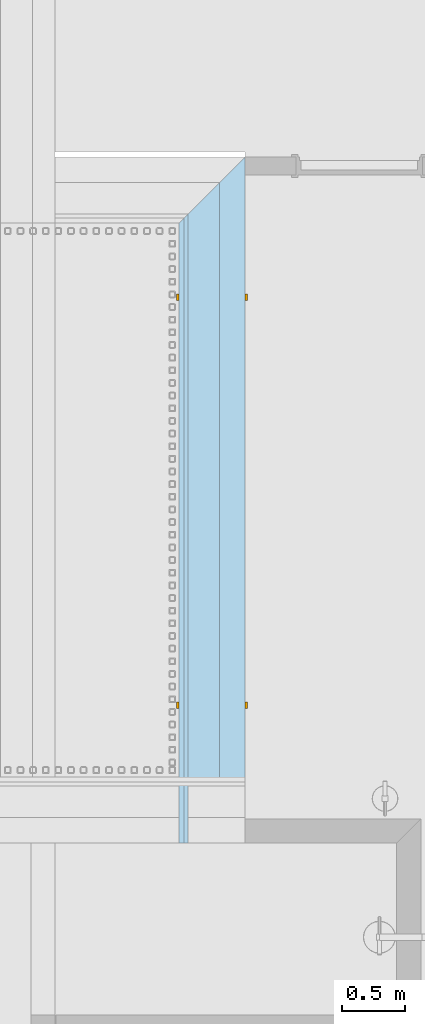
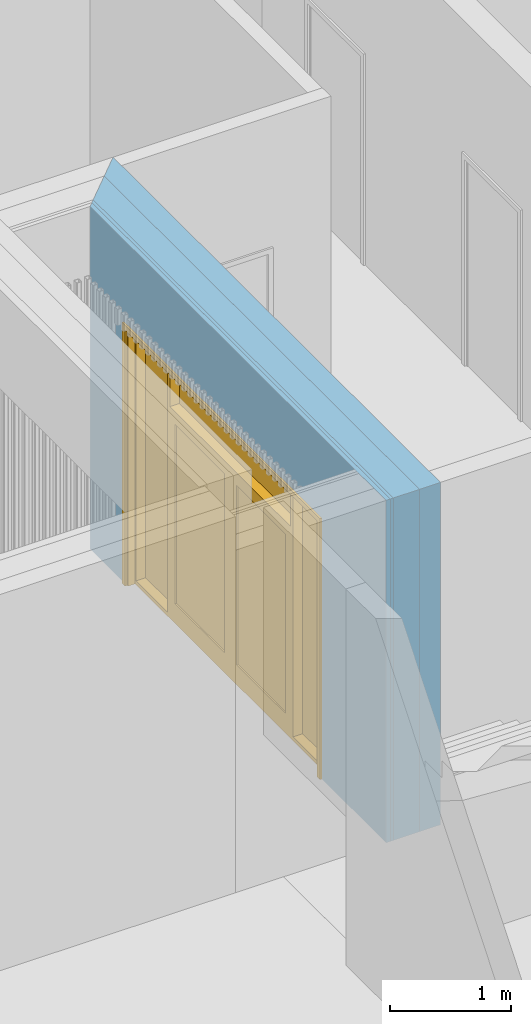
# One storey, part 56 of 112: 1 door, 1 opening, 1 element without a shape of its own, plus 4 elements that do not belong to this part.
"""IFC2X3 building model written with IfcOpenShell, lengths in millimetres."""

from ifc_helpers import new_model, entity, si_unit, converted_unit, derived_unit, money_unit, direction, frame, origin_with_axes, origin_2d_with_axis, place, context, subcontext, project, spatial, polyline, rectangle, outline, extrude, open_shell, faceted_brep, surface_model, material, type_object, element, fill, aggregate, save


model = new_model("IFC2X3")

# Units and contexts
model_context = context("Model", 3, precision=0.01, world=origin_with_axes(), true_north=direction((0.0, 1.0)))
body_context = subcontext(model_context, "Body", "Model", "MODEL_VIEW")
ifc_project = project(units=[si_unit("LENGTHUNIT", "METRE", prefix="MILLI"), si_unit("AREAUNIT", "SQUARE_METRE"), si_unit("VOLUMEUNIT", "CUBIC_METRE"), converted_unit("PLANEANGLEUNIT", "DEGREE", entity("IfcPlaneAngleMeasure", 0.0174532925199), si_unit("PLANEANGLEUNIT", "RADIAN"), dimensions=[0, 0, 0, 0, 0, 0, 0]), si_unit("SOLIDANGLEUNIT", "STERADIAN"), money_unit("EUR"), converted_unit("TIMEUNIT", "Year", entity("IfcTimeMeasure", 31556926.0), si_unit("TIMEUNIT", "SECOND"), dimensions=[0, 0, 1, 0, 0, 0, 0]), si_unit("MASSUNIT", "GRAM", prefix="KILO"), si_unit("THERMODYNAMICTEMPERATUREUNIT", "DEGREE_CELSIUS"), si_unit("LUMINOUSINTENSITYUNIT", "LUMEN"), si_unit("ENERGYUNIT", "JOULE", prefix="MEGA"), derived_unit("THERMALCONDUCTANCEUNIT", [(si_unit("POWERUNIT", "WATT"), 1), (si_unit("LENGTHUNIT", "METRE"), -1), (si_unit("THERMODYNAMICTEMPERATUREUNIT", "KELVIN"), -1)]), derived_unit("SPECIFICHEATCAPACITYUNIT", [(si_unit("ENERGYUNIT", "JOULE"), 1), (si_unit("MASSUNIT", "GRAM", prefix="KILO"), -1), (si_unit("THERMODYNAMICTEMPERATUREUNIT", "KELVIN"), -1)]), derived_unit("MASSDENSITYUNIT", [(si_unit("MASSUNIT", "GRAM", prefix="KILO"), 1), (si_unit("VOLUMEUNIT", "CUBIC_METRE"), -1)])], contexts=[model_context])

# Site, building, storey
site_placement = place(None, origin_with_axes())
site = spatial("IfcSite", under=ifc_project, at=site_placement, Name="Politse- ja Piirivalveameti ning Päästeameti ühishoone", CompositionType="ELEMENT")
building_placement = place(site_placement, origin_with_axes())
building = spatial("IfcBuilding", under=site, at=building_placement, Name="Politse- ja Piirivalveameti ning Päästeameti ühishoone", CompositionType="ELEMENT")
storey_placement = place(building_placement, origin_with_axes())
storey = spatial("IfcBuildingStorey", under=building, at=storey_placement, Name="Esimene korrus", CompositionType="ELEMENT", Elevation=0.0)

# Door
door_style = type_object("IfcDoorStyle", Name="Double Door with 2 Sidelights, Transom 23", ConstructionType="NOTDEFINED", OperationType="USERDEFINED", ParameterTakesPrecedence=False, Sizeable=False)
wall_placement = place(storey_placement, frame((61660.5519118, 26419.9520832, 0.0), z_axis=(0.0, 0.0, 1.0), x_axis=(0.0, -1.0, 0.0)))
opening_placement = place(wall_placement, frame((2720.16441569, 0.0, 0.0), z_axis=(0.0, 0.0, 1.0), x_axis=(1.0, 0.0, 0.0)))
door_placement = place(opening_placement, frame((1600.0, 0.0, 0.0), z_axis=(0.0, 0.0, 1.0), x_axis=(-1.0, 0.0, 0.0)))
door = element("IfcDoor", 1, at=door_placement, inside=storey, type_object=door_style, Name="VU-03", ObjectType="DOOR", OverallHeight=2600.0, OverallWidth=3200.0, context=body_context, shape_type="SurfaceModel", body=[
    faceted_brep([(2612.0, 410.0, 0.0), (2612.0, 410.0, 12.0), (2600.0, 410.0, 12.0), (2600.0, 410.0, 0.0), (588.0, 410.0, 0.0), (588.0, 410.0, 12.0), (600.0, 410.0, 12.0), (600.0, 335.0, 12.0), (2600.0, 335.0, 12.0), (2600.0, 335.0, 0.0), (600.0, 335.0, 0.0), (600.0, 410.0, 0.0)], [[[0, 1, 2, 3]], [[4, 5, 1, 0]], [[1, 5, 6, 7, 8, 2]], [[3, 2, 8, 9]], [[0, 3, 9, 10, 11, 4]], [[11, 6, 5, 4]], [[10, 7, 6, 11]], [[9, 8, 7, 10]]]),
    faceted_brep([(0.0, 335.0, 0.0), (25.0, 335.0, 0.0), (25.0, 0.0, 0.0), (0.0, 0.0, 0.0), (0.0, 335.0, 2600.0), (25.0, 335.0, 2575.0), (25.0, 0.0, 2575.0), (0.0, 0.0, 2600.0)], [[[0, 1, 2, 3]], [[0, 4, 5, 1]], [[1, 5, 6, 2]], [[3, 2, 6, 7]], [[4, 0, 3, 7]], [[5, 4, 7, 6]]]),
    faceted_brep([(3200.0, 335.0, 2600.0), (3175.0, 335.0, 2575.0), (3175.0, 0.0, 2575.0), (3200.0, 0.0, 2600.0), (3200.0, 335.0, 0.0), (3175.0, 335.0, 0.0), (3175.0, 0.0, 0.0), (3200.0, 0.0, 0.0)], [[[0, 1, 2, 3]], [[0, 4, 5, 1]], [[1, 5, 6, 2]], [[3, 2, 6, 7]], [[4, 0, 3, 7]], [[5, 4, 7, 6]]]),
    faceted_brep([(25.0, 335.0, 2575.0), (3175.0, 335.0, 2575.0), (3175.0, 0.0, 2575.0), (25.0, 0.0, 2575.0), (0.0, 335.0, 2600.0), (3200.0, 335.0, 2600.0), (3200.0, 0.0, 2600.0), (0.0, 0.0, 2600.0)], [[[0, 1, 2, 3]], [[0, 4, 5, 1]], [[1, 5, 6, 2]], [[3, 2, 6, 7]], [[4, 0, 3, 7]], [[5, 4, 7, 6]]]),
    faceted_brep([(-37.0, -19.0, 0.0), (-37.0, 0.0, 0.0), (13.0, 0.0, 0.0), (13.0, -19.0, 0.0), (-37.0, -19.0, 2637.0), (-37.0, 0.0, 2637.0), (13.0, 0.0, 2587.0), (13.0, -19.0, 2587.0)], [[[0, 1, 2, 3]], [[4, 5, 1, 0]], [[1, 5, 6, 2]], [[3, 2, 6, 7]], [[0, 3, 7, 4]], [[7, 6, 5, 4]]]),
    faceted_brep([(3237.0, -19.0, 2637.0), (3237.0, 0.0, 2637.0), (3187.0, 0.0, 2587.0), (3187.0, -19.0, 2587.0), (3237.0, -19.0, 0.0), (3237.0, 0.0, 0.0), (3187.0, 0.0, 0.0), (3187.0, -19.0, 0.0)], [[[0, 1, 2, 3]], [[4, 5, 1, 0]], [[1, 5, 6, 2]], [[3, 2, 6, 7]], [[0, 3, 7, 4]], [[7, 6, 5, 4]]]),
    faceted_brep([(-37.0, -19.0, 2637.0), (-37.0, 0.0, 2637.0), (13.0, 0.0, 2587.0), (13.0, -19.0, 2587.0), (3237.0, -19.0, 2637.0), (3237.0, 0.0, 2637.0), (3187.0, 0.0, 2587.0), (3187.0, -19.0, 2587.0)], [[[0, 1, 2, 3]], [[4, 5, 1, 0]], [[1, 5, 6, 2]], [[3, 2, 6, 7]], [[0, 3, 7, 4]], [[7, 6, 5, 4]]]),
    faceted_brep([(0.0, 450.0, 0.0), (0.0, 520.0, 0.0), (25.0, 520.0, 0.0), (25.0, 450.0, 0.0), (0.0, 450.0, 2600.0), (0.0, 520.0, 2600.0), (25.0, 520.0, 2575.0), (25.0, 450.0, 2575.0)], [[[0, 1, 2, 3]], [[4, 5, 1, 0]], [[1, 5, 6, 2]], [[3, 2, 6, 7]], [[0, 3, 7, 4]], [[7, 6, 5, 4]]]),
    faceted_brep([(3200.0, 450.0, 2600.0), (3200.0, 520.0, 2600.0), (3175.0, 520.0, 2575.0), (3175.0, 450.0, 2575.0), (3200.0, 450.0, 0.0), (3200.0, 520.0, 0.0), (3175.0, 520.0, 0.0), (3175.0, 450.0, 0.0)], [[[0, 1, 2, 3]], [[4, 5, 1, 0]], [[1, 5, 6, 2]], [[3, 2, 6, 7]], [[0, 3, 7, 4]], [[7, 6, 5, 4]]]),
    faceted_brep([(0.0, 450.0, 2600.0), (0.0, 520.0, 2600.0), (25.0, 520.0, 2575.0), (25.0, 450.0, 2575.0), (3200.0, 450.0, 2600.0), (3200.0, 520.0, 2600.0), (3175.0, 520.0, 2575.0), (3175.0, 450.0, 2575.0)], [[[0, 1, 2, 3]], [[4, 5, 1, 0]], [[1, 5, 6, 2]], [[3, 2, 6, 7]], [[0, 3, 7, 4]], [[7, 6, 5, 4]]]),
    faceted_brep([(-37.0, 539.0, 0.0), (13.0, 539.0, 0.0), (13.0, 520.0, 0.0), (-37.0, 520.0, 0.0), (-37.0, 539.0, 2637.0), (13.0, 539.0, 2587.0), (13.0, 520.0, 2587.0), (-37.0, 520.0, 2637.0)], [[[0, 1, 2, 3]], [[0, 4, 5, 1]], [[1, 5, 6, 2]], [[3, 2, 6, 7]], [[4, 0, 3, 7]], [[5, 4, 7, 6]]]),
    faceted_brep([(3237.0, 539.0, 2637.0), (3187.0, 539.0, 2587.0), (3187.0, 520.0, 2587.0), (3237.0, 520.0, 2637.0), (3237.0, 539.0, 0.0), (3187.0, 539.0, 0.0), (3187.0, 520.0, 0.0), (3237.0, 520.0, 0.0)], [[[0, 1, 2, 3]], [[0, 4, 5, 1]], [[1, 5, 6, 2]], [[3, 2, 6, 7]], [[4, 0, 3, 7]], [[5, 4, 7, 6]]]),
    faceted_brep([(-37.0, 539.0, 2637.0), (13.0, 539.0, 2587.0), (13.0, 520.0, 2587.0), (-37.0, 520.0, 2637.0), (3237.0, 539.0, 2637.0), (3187.0, 539.0, 2587.0), (3187.0, 520.0, 2587.0), (3237.0, 520.0, 2637.0)], [[[0, 1, 2, 3]], [[0, 4, 5, 1]], [[1, 5, 6, 2]], [[3, 2, 6, 7]], [[4, 0, 3, 7]], [[5, 4, 7, 6]]]),
    faceted_brep([(0.0, 450.0, 0.0), (40.0, 450.0, 0.0), (40.0, 335.0, 0.0), (0.0, 335.0, 0.0), (0.0, 450.0, 2560.0), (40.0, 450.0, 2560.0), (40.0, 450.0, 40.0), (40.0, 335.0, 40.0), (40.0, 335.0, 2560.0), (0.0, 335.0, 2560.0)], [[[0, 1, 2, 3]], [[0, 4, 5, 6, 1]], [[1, 6, 7, 2]], [[3, 2, 7, 8, 9]], [[4, 0, 3, 9]], [[5, 4, 9, 8]], [[6, 5, 8, 7]]]),
    faceted_brep([(600.0, 410.0, 2112.0), (600.0, 450.0, 2112.0), (600.0, 450.0, 2140.0), (600.0, 335.0, 2140.0), (600.0, 335.0, 2100.0), (600.0, 410.0, 2100.0), (588.0, 410.0, 2112.0), (588.0, 450.0, 2112.0), (588.0, 450.0, 0.0), (560.0, 450.0, 0.0), (560.0, 450.0, 40.0), (560.0, 450.0, 2560.0), (600.0, 450.0, 2560.0), (600.0, 335.0, 2560.0), (560.0, 335.0, 2560.0), (560.0, 335.0, 40.0), (560.0, 335.0, 0.0), (600.0, 335.0, 0.0), (600.0, 410.0, 0.0), (588.0, 410.0, 0.0)], [[[0, 1, 2, 3, 4, 5]], [[1, 0, 6, 7]], [[7, 8, 9, 10, 11, 12, 2, 1]], [[12, 13, 3, 2]], [[4, 3, 13, 14, 15, 16, 17]], [[18, 5, 4, 17]], [[0, 5, 18, 19, 6]], [[8, 7, 6, 19]], [[19, 18, 17, 16, 9, 8]], [[9, 16, 15, 10]], [[10, 15, 14, 11]], [[11, 14, 13, 12]]]),
    faceted_brep([(40.0, 450.0, 40.0), (40.0, 450.0, 0.0), (40.0, 335.0, 0.0), (40.0, 335.0, 40.0), (560.0, 450.0, 40.0), (560.0, 450.0, 0.0), (560.0, 335.0, 0.0), (560.0, 335.0, 40.0)], [[[0, 1, 2, 3]], [[0, 4, 5, 1]], [[1, 5, 6, 2]], [[3, 2, 6, 7]], [[4, 0, 3, 7]], [[5, 4, 7, 6]]]),
    faceted_brep([(3200.0, 450.0, 0.0), (3200.0, 450.0, 2560.0), (3200.0, 335.0, 2560.0), (3200.0, 335.0, 0.0), (3160.0, 450.0, 0.0), (3160.0, 450.0, 40.0), (3160.0, 450.0, 2560.0), (3160.0, 335.0, 2560.0), (3160.0, 335.0, 40.0), (3160.0, 335.0, 0.0)], [[[0, 1, 2, 3]], [[0, 4, 5, 6, 1]], [[1, 6, 7, 2]], [[3, 2, 7, 8, 9]], [[4, 0, 3, 9]], [[5, 4, 9, 8]], [[6, 5, 8, 7]]]),
    faceted_brep([(2612.0, 450.0, 2112.0), (2600.0, 450.0, 2112.0), (2600.0, 450.0, 2140.0), (2600.0, 450.0, 2560.0), (2640.0, 450.0, 2560.0), (2640.0, 450.0, 40.0), (2640.0, 450.0, 0.0), (2612.0, 450.0, 0.0), (2612.0, 410.0, 2112.0), (2600.0, 410.0, 2112.0), (2600.0, 410.0, 2100.0), (2600.0, 335.0, 2100.0), (2600.0, 335.0, 2140.0), (2600.0, 335.0, 2560.0), (2640.0, 335.0, 2560.0), (2640.0, 335.0, 40.0), (2640.0, 335.0, 0.0), (2612.0, 410.0, 0.0), (2600.0, 335.0, 0.0), (2600.0, 410.0, 0.0)], [[[0, 1, 2, 3, 4, 5, 6, 7]], [[1, 0, 8, 9]], [[9, 10, 11, 12, 2, 1]], [[2, 12, 13, 3]], [[3, 13, 14, 4]], [[4, 14, 15, 5]], [[5, 15, 16, 6]], [[17, 7, 6, 16, 18, 19]], [[0, 7, 17, 8]], [[17, 19, 10, 9, 8]], [[10, 19, 18, 11]], [[18, 16, 15, 14, 13, 12, 11]]]),
    faceted_brep([(2640.0, 450.0, 40.0), (2640.0, 450.0, 0.0), (2640.0, 335.0, 0.0), (2640.0, 335.0, 40.0), (3160.0, 450.0, 40.0), (3160.0, 450.0, 0.0), (3160.0, 335.0, 0.0), (3160.0, 335.0, 40.0)], [[[0, 1, 2, 3]], [[0, 4, 5, 1]], [[1, 5, 6, 2]], [[3, 2, 6, 7]], [[4, 0, 3, 7]], [[5, 4, 7, 6]]]),
    faceted_brep([(0.0, 450.0, 2600.0), (0.0, 450.0, 2560.0), (0.0, 335.0, 2560.0), (0.0, 335.0, 2600.0), (3200.0, 450.0, 2600.0), (3200.0, 450.0, 2560.0), (3160.0, 450.0, 2560.0), (2640.0, 450.0, 2560.0), (2600.0, 450.0, 2560.0), (600.0, 450.0, 2560.0), (560.0, 450.0, 2560.0), (40.0, 450.0, 2560.0), (40.0, 335.0, 2560.0), (560.0, 335.0, 2560.0), (600.0, 335.0, 2560.0), (2600.0, 335.0, 2560.0), (2640.0, 335.0, 2560.0), (3160.0, 335.0, 2560.0), (3200.0, 335.0, 2560.0), (3200.0, 335.0, 2600.0)], [[[0, 1, 2, 3]], [[0, 4, 5, 6, 7, 8, 9, 10, 11, 1]], [[1, 11, 12, 2]], [[3, 2, 12, 13, 14, 15, 16, 17, 18, 19]], [[4, 0, 3, 19]], [[5, 4, 19, 18]], [[6, 5, 18, 17]], [[7, 6, 17, 16]], [[8, 7, 16, 15]], [[9, 8, 15, 14]], [[10, 9, 14, 13]], [[11, 10, 13, 12]]]),
    faceted_brep([(2600.0, 410.0, 2112.0), (2600.0, 450.0, 2112.0), (2600.0, 450.0, 2140.0), (2600.0, 335.0, 2140.0), (2600.0, 335.0, 2100.0), (2600.0, 410.0, 2100.0), (600.0, 410.0, 2112.0), (600.0, 450.0, 2112.0), (600.0, 450.0, 2140.0), (600.0, 335.0, 2140.0), (600.0, 335.0, 2100.0), (600.0, 410.0, 2100.0)], [[[0, 1, 2, 3, 4, 5]], [[1, 0, 6, 7]], [[1, 7, 8, 2]], [[8, 9, 3, 2]], [[10, 4, 3, 9]], [[11, 5, 4, 10]], [[0, 5, 11, 6]], [[6, 11, 10, 9, 8, 7]]]),
    faceted_brep([(2612.0, 450.0, 200.0), (2612.0, 410.0, 200.0), (2512.0, 410.0, 200.0), (2512.0, 450.0, 200.0), (2612.0, 450.0, 2012.0), (2612.0, 410.0, 2012.0), (2512.0, 410.0, 2012.0), (2512.0, 450.0, 2012.0)], [[[0, 1, 2, 3]], [[4, 5, 1, 0]], [[1, 5, 6, 2]], [[3, 2, 6, 7]], [[0, 3, 7, 4]], [[7, 6, 5, 4]]]),
    faceted_brep([(1600.0, 450.0, 200.0), (1600.0, 410.0, 200.0), (1600.0, 410.0, 2012.0), (1600.0, 450.0, 2012.0), (1700.0, 450.0, 200.0), (1700.0, 410.0, 200.0), (1700.0, 410.0, 2012.0), (1700.0, 450.0, 2012.0)], [[[0, 1, 2, 3]], [[4, 5, 1, 0]], [[1, 5, 6, 2]], [[3, 2, 6, 7]], [[0, 3, 7, 4]], [[7, 6, 5, 4]]]),
    faceted_brep([(2612.0, 450.0, 0.0), (2612.0, 410.0, 0.0), (1600.0, 410.0, 0.0), (1600.0, 450.0, 0.0), (2612.0, 450.0, 200.0), (2612.0, 410.0, 200.0), (2512.0, 410.0, 200.0), (1700.0, 410.0, 200.0), (1600.0, 410.0, 200.0), (1600.0, 450.0, 200.0), (1700.0, 450.0, 200.0), (2512.0, 450.0, 200.0)], [[[0, 1, 2, 3]], [[4, 5, 1, 0]], [[1, 5, 6, 7, 8, 2]], [[3, 2, 8, 9]], [[0, 3, 9, 10, 11, 4]], [[11, 6, 5, 4]], [[10, 7, 6, 11]], [[9, 8, 7, 10]]]),
    faceted_brep([(2612.0, 450.0, 2112.0), (2612.0, 410.0, 2112.0), (2612.0, 410.0, 2012.0), (2612.0, 450.0, 2012.0), (1600.0, 450.0, 2112.0), (1600.0, 410.0, 2112.0), (1600.0, 410.0, 2012.0), (1700.0, 410.0, 2012.0), (2512.0, 410.0, 2012.0), (2512.0, 450.0, 2012.0), (1700.0, 450.0, 2012.0), (1600.0, 450.0, 2012.0)], [[[0, 1, 2, 3]], [[4, 5, 1, 0]], [[1, 5, 6, 7, 8, 2]], [[3, 2, 8, 9]], [[0, 3, 9, 10, 11, 4]], [[11, 6, 5, 4]], [[10, 7, 6, 11]], [[9, 8, 7, 10]]]),
    surface_model("IfcShellBasedSurfaceModel", [(2512.0, 436.0, 200.0), (1700.0, 436.0, 200.0), (1700.0, 436.0, 2012.0), (2512.0, 436.0, 2012.0)], [open_shell([[[0, 1, 2, 3]]])]),
    surface_model("IfcShellBasedSurfaceModel", [(2512.0, 424.0, 200.0), (2512.0, 424.0, 2012.0), (1700.0, 424.0, 2012.0), (1700.0, 424.0, 200.0)], [open_shell([[[0, 1, 2, 3]]])]),
    faceted_brep([(588.0, 450.0, 200.0), (688.0, 450.0, 200.0), (688.0, 410.0, 200.0), (588.0, 410.0, 200.0), (588.0, 450.0, 2012.0), (688.0, 450.0, 2012.0), (688.0, 410.0, 2012.0), (588.0, 410.0, 2012.0)], [[[0, 1, 2, 3]], [[0, 4, 5, 1]], [[1, 5, 6, 2]], [[3, 2, 6, 7]], [[4, 0, 3, 7]], [[5, 4, 7, 6]]]),
    faceted_brep([(1600.0, 450.0, 200.0), (1600.0, 450.0, 2012.0), (1600.0, 410.0, 2012.0), (1600.0, 410.0, 200.0), (1500.0, 450.0, 200.0), (1500.0, 450.0, 2012.0), (1500.0, 410.0, 2012.0), (1500.0, 410.0, 200.0)], [[[0, 1, 2, 3]], [[0, 4, 5, 1]], [[1, 5, 6, 2]], [[3, 2, 6, 7]], [[4, 0, 3, 7]], [[5, 4, 7, 6]]]),
    faceted_brep([(588.0, 450.0, 0.0), (1600.0, 450.0, 0.0), (1600.0, 410.0, 0.0), (588.0, 410.0, 0.0), (588.0, 450.0, 200.0), (688.0, 450.0, 200.0), (1500.0, 450.0, 200.0), (1600.0, 450.0, 200.0), (1600.0, 410.0, 200.0), (1500.0, 410.0, 200.0), (688.0, 410.0, 200.0), (588.0, 410.0, 200.0)], [[[0, 1, 2, 3]], [[0, 4, 5, 6, 7, 1]], [[1, 7, 8, 2]], [[3, 2, 8, 9, 10, 11]], [[4, 0, 3, 11]], [[5, 4, 11, 10]], [[6, 5, 10, 9]], [[7, 6, 9, 8]]]),
    faceted_brep([(588.0, 450.0, 2112.0), (588.0, 450.0, 2012.0), (588.0, 410.0, 2012.0), (588.0, 410.0, 2112.0), (1600.0, 450.0, 2112.0), (1600.0, 450.0, 2012.0), (1500.0, 450.0, 2012.0), (688.0, 450.0, 2012.0), (688.0, 410.0, 2012.0), (1500.0, 410.0, 2012.0), (1600.0, 410.0, 2012.0), (1600.0, 410.0, 2112.0)], [[[0, 1, 2, 3]], [[0, 4, 5, 6, 7, 1]], [[1, 7, 8, 2]], [[3, 2, 8, 9, 10, 11]], [[4, 0, 3, 11]], [[5, 4, 11, 10]], [[6, 5, 10, 9]], [[7, 6, 9, 8]]]),
    surface_model("IfcShellBasedSurfaceModel", [(688.0, 436.0, 200.0), (688.0, 436.0, 2012.0), (1500.0, 436.0, 2012.0), (1500.0, 436.0, 200.0)], [open_shell([[[0, 1, 2, 3]]])]),
    surface_model("IfcShellBasedSurfaceModel", [(688.0, 424.0, 200.0), (1500.0, 424.0, 200.0), (1500.0, 424.0, 2012.0), (688.0, 424.0, 2012.0)], [open_shell([[[0, 1, 2, 3]]])]),
    surface_model("IfcShellBasedSurfaceModel", [(600.0, 359.0, 2140.0), (600.0, 359.0, 2560.0), (2600.0, 359.0, 2560.0), (2600.0, 359.0, 2140.0)], [open_shell([[[0, 1, 2, 3]]])]),
    surface_model("IfcShellBasedSurfaceModel", [(600.0, 347.0, 2140.0), (2600.0, 347.0, 2140.0), (2600.0, 347.0, 2560.0), (600.0, 347.0, 2560.0)], [open_shell([[[0, 1, 2, 3]]])]),
    surface_model("IfcShellBasedSurfaceModel", [(40.0, 359.0, 40.0), (40.0, 359.0, 2560.0), (560.0, 359.0, 2560.0), (560.0, 359.0, 40.0)], [open_shell([[[0, 1, 2, 3]]])]),
    surface_model("IfcShellBasedSurfaceModel", [(40.0, 347.0, 40.0), (560.0, 347.0, 40.0), (560.0, 347.0, 2560.0), (40.0, 347.0, 2560.0)], [open_shell([[[0, 1, 2, 3]]])]),
    surface_model("IfcShellBasedSurfaceModel", [(2640.0, 359.0, 40.0), (2640.0, 359.0, 2560.0), (3160.0, 359.0, 2560.0), (3160.0, 359.0, 40.0)], [open_shell([[[0, 1, 2, 3]]])]),
    surface_model("IfcShellBasedSurfaceModel", [(2640.0, 347.0, 40.0), (3160.0, 347.0, 40.0), (3160.0, 347.0, 2560.0), (2640.0, 347.0, 2560.0)], [open_shell([[[0, 1, 2, 3]]])]),
])

# Wall, opening
wall_type = type_object("IfcWallType", Name="VS-04_välissein paneel200 + fassaadikassett 520", PredefinedType="NOTDEFINED")
wall = element("IfcWall", 2, at=wall_placement, inside=storey, type_object=wall_type, Name="VS-04")
opening = element("IfcOpeningElement", 3, at=opening_placement, cuts=wall, Name="VU-03", context=body_context, shape_type="SweptSolid", body=[
    extrude(rectangle(XDim=3200.0, YDim=2600.0, at=origin_2d_with_axis()), frame((0.0, -450.0, 1300.0), z_axis=(0.0, -1.0, 0.0), x_axis=(-1.0, 0.0, 0.0)), (0.0, 0.0, -1.0), 970.0),
    extrude(rectangle(XDim=3200.0, YDim=2600.0, at=origin_2d_with_axis()), frame((0.0, -450.0, 1300.0), z_axis=(0.0, 1.0, 0.0), x_axis=(-1.0, 0.0, 0.0)), (0.0, 0.0, -1.0), 590.0),
    extrude(rectangle(XDim=3274.0, YDim=2637.0, at=origin_2d_with_axis()), frame((0.0, 0.0, 1318.5), z_axis=(0.0, -1.0, 0.0), x_axis=(-1.0, 0.0, 0.0)), (0.0, 0.0, -1.0), 590.0),
    extrude(rectangle(XDim=3274.0, YDim=2637.0, at=origin_2d_with_axis()), frame((0.0, -520.0, 1318.5), z_axis=(0.0, 1.0, 0.0), x_axis=(-1.0, 0.0, 0.0)), (0.0, 0.0, -1.0), 590.0),
])

fill(opening, door)

# Building element part
ifc_material_1 = material(Name="KON-04_Betoon - Konstuktsioon")
building_element_part_1_placement = place(wall_placement, origin_with_axes())
building_element_part_1 = element("IfcBuildingElementPart", 4, at=building_element_part_1_placement, material=ifc_material_1, Name="KON-04_Betoon - Konstuktsioon", context=body_context, shape_type="SweptSolid", body=[
    extrude(outline(polyline([(200.0, -200.0), (5420.0, -200.0), (5420.0, 0.0), (0.0, 0.0), (200.0, -200.0)])), origin_with_axes(), (0.0, 0.0, 1.0), 3460.0),
])

ifc_material_2 = material(Name="SOJ-06_Soojustus - Plastik Kõva")
building_element_part_2_placement = place(wall_placement, origin_with_axes())
building_element_part_2 = element("IfcBuildingElementPart", 5, at=building_element_part_2_placement, material=ifc_material_2, Name="SOJ-06_Soojustus - Plastik Kõva", context=body_context, shape_type="SweptSolid", body=[
    extrude(outline(polyline([(450.0, -450.0), (5420.0, -450.0), (5420.0, -200.0), (200.0, -200.0), (450.0, -450.0)])), origin_with_axes(), (0.0, 0.0, 1.0), 3460.0),
])

ifc_material_3 = material(Name="Õhkvahe - Raam")
building_element_part_3_placement = place(wall_placement, origin_with_axes())
building_element_part_3 = element("IfcBuildingElementPart", 6, at=building_element_part_3_placement, material=ifc_material_3, Name="Õhkvahe - Raam", context=body_context, shape_type="SweptSolid", body=[
    extrude(outline(polyline([(480.0, -480.0), (5420.0, -480.0), (5420.0, -450.0), (450.0, -450.0), (480.0, -480.0)])), origin_with_axes(), (0.0, 0.0, 1.0), 3460.0),
])

ifc_material_4 = material(Name="GENEERILINE - VÄLINE VOODER")
building_element_part_4_placement = place(wall_placement, origin_with_axes())
building_element_part_4 = element("IfcBuildingElementPart", 7, at=building_element_part_4_placement, material=ifc_material_4, Name="GENEERILINE - VÄLINE VOODER", context=body_context, shape_type="SweptSolid", body=[
    extrude(outline(polyline([(520.0, -520.0), (5420.0, -520.0), (5420.0, -480.0), (480.0, -480.0), (520.0, -520.0)])), origin_with_axes(), (0.0, 0.0, 1.0), 3460.0),
])

aggregate(wall, [building_element_part_1, building_element_part_2, building_element_part_3, building_element_part_4])

save(model, "model.ifc")
